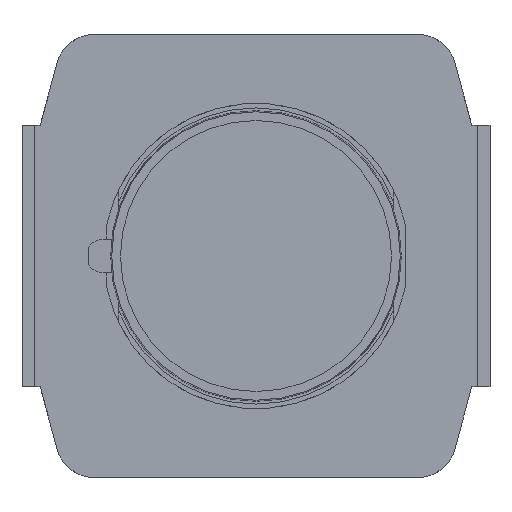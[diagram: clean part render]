
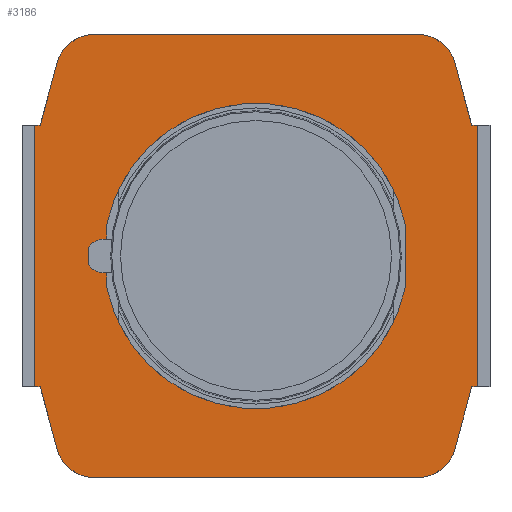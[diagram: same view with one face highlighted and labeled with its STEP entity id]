
A CAD part, front view. The second image highlights one B-rep face of the part: STEP entity #3186.
In plain terms, the highlighted planar face has unit normal (0, -1, 0).
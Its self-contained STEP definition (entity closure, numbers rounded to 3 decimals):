
#97=CIRCLE('',#3391,8.);
#102=CIRCLE('',#3398,8.);
#106=CIRCLE('',#3403,8.);
#111=CIRCLE('',#3410,8.);
#409=ORIENTED_EDGE('',*,*,#1206,.F.);
#410=ORIENTED_EDGE('',*,*,#1259,.T.);
#411=ORIENTED_EDGE('',*,*,#1187,.F.);
#412=ORIENTED_EDGE('',*,*,#1122,.F.);
#413=ORIENTED_EDGE('',*,*,#1226,.F.);
#414=ORIENTED_EDGE('',*,*,#1220,.F.);
#415=ORIENTED_EDGE('',*,*,#1216,.F.);
#416=ORIENTED_EDGE('',*,*,#1113,.F.);
#417=ORIENTED_EDGE('',*,*,#1152,.F.);
#418=ORIENTED_EDGE('',*,*,#1260,.T.);
#419=ORIENTED_EDGE('',*,*,#1131,.F.);
#420=ORIENTED_EDGE('',*,*,#1117,.F.);
#421=ORIENTED_EDGE('',*,*,#1241,.F.);
#422=ORIENTED_EDGE('',*,*,#1235,.F.);
#423=ORIENTED_EDGE('',*,*,#1231,.F.);
#424=ORIENTED_EDGE('',*,*,#1129,.F.);
#1113=EDGE_CURVE('',#1565,#1566,#1866,.T.);
#1117=EDGE_CURVE('',#1569,#1570,#1870,.T.);
#1122=EDGE_CURVE('',#1573,#1574,#1875,.T.);
#1129=EDGE_CURVE('',#1579,#1580,#1882,.T.);
#1131=EDGE_CURVE('',#1570,#1581,#1884,.T.);
#1152=EDGE_CURVE('',#1597,#1565,#1904,.T.);
#1187=EDGE_CURVE('',#1574,#1622,#1939,.T.);
#1206=EDGE_CURVE('',#1634,#1579,#1957,.T.);
#1216=EDGE_CURVE('',#1566,#1641,#97,.T.);
#1220=EDGE_CURVE('',#1641,#1644,#1966,.T.);
#1226=EDGE_CURVE('',#1644,#1573,#102,.T.);
#1231=EDGE_CURVE('',#1580,#1650,#106,.T.);
#1235=EDGE_CURVE('',#1650,#1653,#1972,.T.);
#1241=EDGE_CURVE('',#1653,#1569,#111,.T.);
#1259=EDGE_CURVE('',#1634,#1622,#1991,.T.);
#1260=EDGE_CURVE('',#1597,#1581,#1992,.T.);
#1565=VERTEX_POINT('',#4624);
#1566=VERTEX_POINT('',#4626);
#1569=VERTEX_POINT('',#4633);
#1570=VERTEX_POINT('',#4635);
#1573=VERTEX_POINT('',#4643);
#1574=VERTEX_POINT('',#4645);
#1579=VERTEX_POINT('',#4657);
#1580=VERTEX_POINT('',#4659);
#1581=VERTEX_POINT('',#4663);
#1597=VERTEX_POINT('',#4704);
#1622=VERTEX_POINT('',#4773);
#1634=VERTEX_POINT('',#4808);
#1641=VERTEX_POINT('',#4828);
#1644=VERTEX_POINT('',#4836);
#1650=VERTEX_POINT('',#4855);
#1653=VERTEX_POINT('',#4863);
#1866=LINE('',#4625,#2236);
#1870=LINE('',#4634,#2240);
#1875=LINE('',#4644,#2245);
#1882=LINE('',#4658,#2252);
#1884=LINE('',#4662,#2254);
#1904=LINE('',#4705,#2274);
#1939=LINE('',#4772,#2309);
#1957=LINE('',#4809,#2327);
#1966=LINE('',#4835,#2336);
#1972=LINE('',#4862,#2342);
#1991=LINE('',#4909,#2361);
#1992=LINE('',#4910,#2362);
#2236=VECTOR('',#3682,1000.);
#2240=VECTOR('',#3688,1000.);
#2245=VECTOR('',#3695,1000.);
#2252=VECTOR('',#3704,1000.);
#2254=VECTOR('',#3708,1000.);
#2274=VECTOR('',#3740,1000.);
#2309=VECTOR('',#3791,1000.);
#2327=VECTOR('',#3821,1000.);
#2336=VECTOR('',#3846,1000.);
#2342=VECTOR('',#3876,1000.);
#2361=VECTOR('',#3911,1000.);
#2362=VECTOR('',#3912,1000.);
#2617=EDGE_LOOP('',(#409,#410,#411,#412,#413,#414,#415,#416,#417,#418,#419,
#420,#421,#422,#423,#424));
#2833=FACE_BOUND('',#2617,.T.);
#3039=PLANE('',#3414);
#3186=ADVANCED_FACE('',(#2833),#3039,.F.);
#3391=AXIS2_PLACEMENT_3D('',#4827,#3837,#3838);
#3398=AXIS2_PLACEMENT_3D('',#4846,#3856,#3857);
#3403=AXIS2_PLACEMENT_3D('',#4854,#3867,#3868);
#3410=AXIS2_PLACEMENT_3D('',#4873,#3886,#3887);
#3414=AXIS2_PLACEMENT_3D('',#4908,#3909,#3910);
#3682=DIRECTION('',(0.259,0.,0.966));
#3688=DIRECTION('',(-0.259,0.,0.966));
#3695=DIRECTION('',(0.259,0.,-0.966));
#3704=DIRECTION('',(-0.259,0.,-0.966));
#3708=DIRECTION('',(-1.,0.,0.));
#3740=DIRECTION('',(1.,0.,0.));
#3791=DIRECTION('',(1.,0.,0.));
#3821=DIRECTION('',(-1.,0.,0.));
#3837=DIRECTION('',(0.,1.,0.));
#3838=DIRECTION('',(1.,0.,0.));
#3846=DIRECTION('',(1.,0.,0.));
#3856=DIRECTION('',(0.,1.,0.));
#3857=DIRECTION('',(1.,0.,0.));
#3867=DIRECTION('',(0.,1.,0.));
#3868=DIRECTION('',(1.,0.,0.));
#3876=DIRECTION('',(-1.,0.,0.));
#3886=DIRECTION('',(0.,1.,0.));
#3887=DIRECTION('',(1.,0.,0.));
#3909=DIRECTION('',(0.,1.,0.));
#3910=DIRECTION('',(0.,0.,1.));
#3911=DIRECTION('',(0.,0.,1.));
#3912=DIRECTION('',(0.,0.,-1.));
#4624=CARTESIAN_POINT('',(-43.8,-44.5,26.5));
#4625=CARTESIAN_POINT('',(-43.8,-44.5,26.5));
#4626=CARTESIAN_POINT('',(-40.432,-44.5,39.071));
#4633=CARTESIAN_POINT('',(-40.432,-44.5,-39.071));
#4634=CARTESIAN_POINT('',(-40.432,-44.5,-39.071));
#4635=CARTESIAN_POINT('',(-43.8,-44.5,-26.5));
#4643=CARTESIAN_POINT('',(40.432,-44.5,39.071));
#4644=CARTESIAN_POINT('',(40.432,-44.5,39.071));
#4645=CARTESIAN_POINT('',(43.8,-44.5,26.5));
#4657=CARTESIAN_POINT('',(43.8,-44.5,-26.5));
#4658=CARTESIAN_POINT('',(43.8,-44.5,-26.5));
#4659=CARTESIAN_POINT('',(40.432,-44.5,-39.071));
#4662=CARTESIAN_POINT('',(-43.8,-44.5,-26.5));
#4663=CARTESIAN_POINT('',(-45.,-44.5,-26.5));
#4704=CARTESIAN_POINT('',(-45.,-44.5,26.5));
#4705=CARTESIAN_POINT('',(-47.5,-44.5,26.5));
#4772=CARTESIAN_POINT('',(43.8,-44.5,26.5));
#4773=CARTESIAN_POINT('',(45.,-44.5,26.5));
#4808=CARTESIAN_POINT('',(45.,-44.5,-26.5));
#4809=CARTESIAN_POINT('',(47.5,-44.5,-26.5));
#4827=CARTESIAN_POINT('',(-32.704,-44.5,37.));
#4828=CARTESIAN_POINT('',(-32.704,-44.5,45.));
#4835=CARTESIAN_POINT('',(-32.704,-44.5,45.));
#4836=CARTESIAN_POINT('',(32.704,-44.5,45.));
#4846=CARTESIAN_POINT('',(32.704,-44.5,37.));
#4854=CARTESIAN_POINT('',(32.704,-44.5,-37.));
#4855=CARTESIAN_POINT('',(32.704,-44.5,-45.));
#4862=CARTESIAN_POINT('',(32.704,-44.5,-45.));
#4863=CARTESIAN_POINT('',(-32.704,-44.5,-45.));
#4873=CARTESIAN_POINT('',(-32.704,-44.5,-37.));
#4908=CARTESIAN_POINT('',(-32.704,-44.5,37.));
#4909=CARTESIAN_POINT('',(45.,-44.5,37.));
#4910=CARTESIAN_POINT('',(-45.,-44.5,37.));
